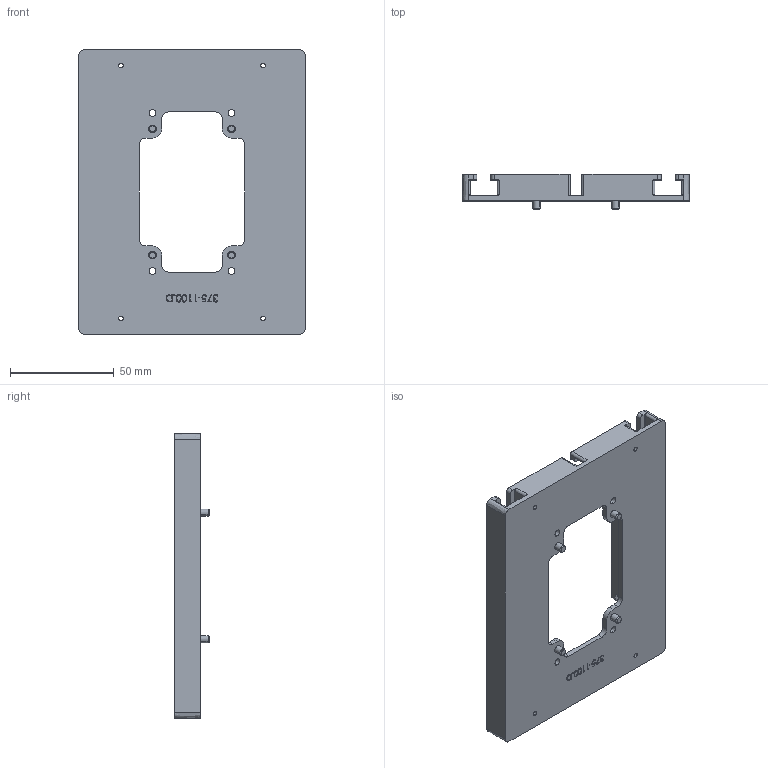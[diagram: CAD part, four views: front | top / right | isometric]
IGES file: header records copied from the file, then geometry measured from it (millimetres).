
Start section: SolidWorks IGES file using analytic representation for surfaces
Global section: file name: C:\Dropbox\Mechanical Engr\Development Projects (P)\Accessories\Customer Model Development\Accessory, 200-TRAY.IGS; native system: SolidWorks 2014; preprocessor: SolidWorks 2014; author: mhanson; date: 150811.121019; units: inch
Bounding box: 109.22 x 16.76 x 137.16 mm (x, y, z)
Volume: 63097.1 mm3; surface area: 41933.3 mm2
Topology: 5 solids, 5 shells, 469 faces, 1236 edges, 792 vertices
Faces by surface type: revolution 236, plane 182, bspline 51
